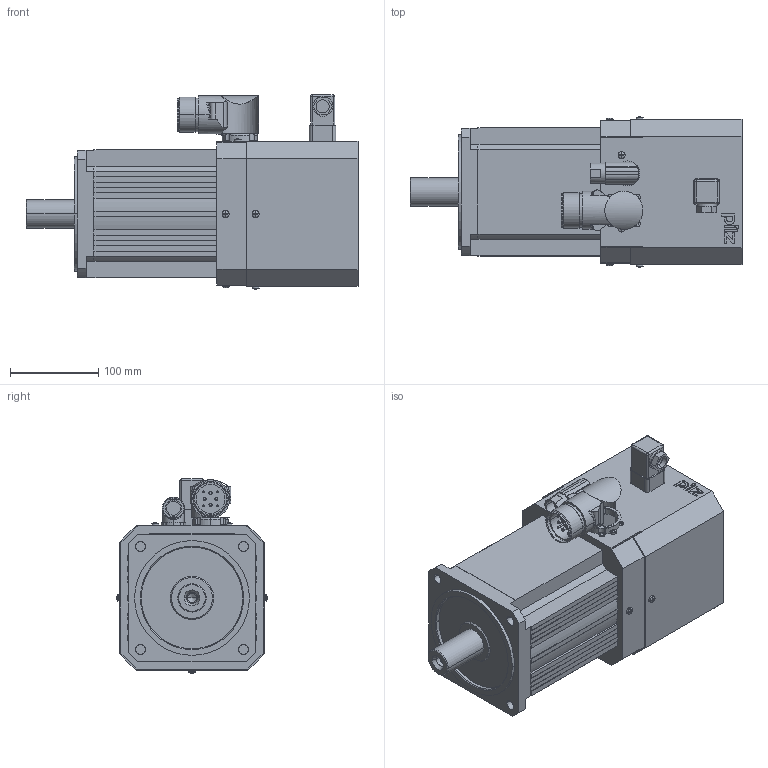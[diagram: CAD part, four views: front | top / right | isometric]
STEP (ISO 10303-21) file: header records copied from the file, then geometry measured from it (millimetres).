
FILE_DESCRIPTION((''),'2;1');
FILE_NAME('2017273','2015-03-17T',('smayer'),(''),'PRO/ENGINEER BY PARAMETRIC TECHNOLOGY CORPORATION, 2014310','PRO/ENGINEER BY PARAMETRIC TECHNOLOGY CORPORATION, 2014310','');
FILE_SCHEMA(('AUTOMOTIVE_DESIGN { 1 0 10303 214 1 1 1 1 }'));
Length unit declared in the file: millimetre
Products named in the file (1): 2017273
Bounding box: 376 x 170.31 x 220.06 mm (x, y, z)
Surface area: 309540.4 mm2 (no closed solid volume)
Topology: 0 solids, 15 shells, 685 faces, 2232 edges, 1480 vertices
Faces by surface type: plane 412, cylinder 192, cone 32, sphere 29, bspline 12, torus 8
Entity records: 37473 total; most frequent: CARTESIAN_POINT 5852, DIRECTION 4281, ORIENTED_EDGE 4003, PRESENTATION_STYLE_ASSIGNMENT 2912, STYLED_ITEM 2227, CURVE_STYLE 2226, EDGE_CURVE 2217, VERTEX_POINT 1480
